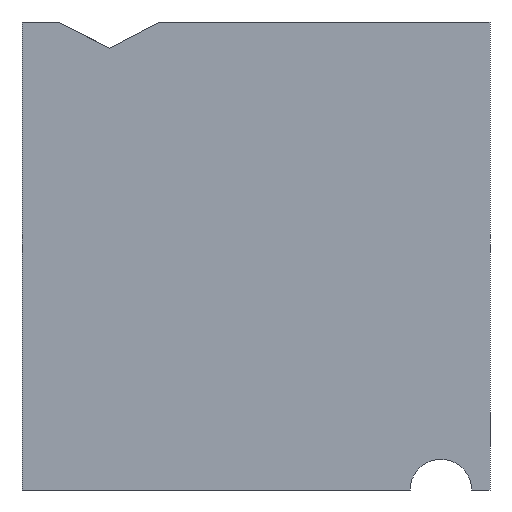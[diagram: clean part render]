
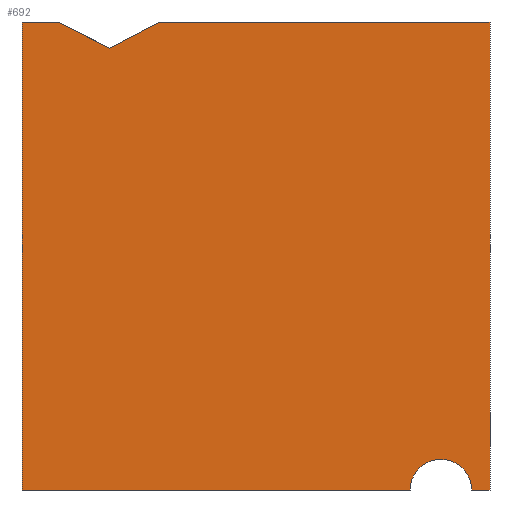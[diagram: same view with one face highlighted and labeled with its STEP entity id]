
A CAD part, front view. The second image highlights one B-rep face of the part: STEP entity #692.
In plain terms, the highlighted planar face has unit normal (0, -1, 0).
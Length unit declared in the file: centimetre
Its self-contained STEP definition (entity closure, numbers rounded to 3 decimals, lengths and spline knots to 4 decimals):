
#15 = ORIENTED_EDGE ( 'NONE', *, *, #369, .F. ) ;
#31 = VECTOR ( 'NONE', #535, 100. ) ;
#48 = ORIENTED_EDGE ( 'NONE', *, *, #1205, .T. ) ;
#49 = DIRECTION ( 'NONE',  ( 0., 1., 0. ) ) ;
#69 = CARTESIAN_POINT ( 'NONE',  ( 0., 0., 1000. ) ) ;
#71 = CARTESIAN_POINT ( 'NONE',  ( 0., 0., 1000. ) ) ;
#77 = DIRECTION ( 'NONE',  ( 0., 0., -1. ) ) ;
#95 = EDGE_CURVE ( 'NONE', #802, #153, #956, .T. ) ;
#114 = VERTEX_POINT ( 'NONE', #152 ) ;
#124 = CARTESIAN_POINT ( 'NONE',  ( 0., 0., 1000. ) ) ;
#152 = CARTESIAN_POINT ( 'NONE',  ( 1000., 0., 0. ) ) ;
#153 = VERTEX_POINT ( 'NONE', #159 ) ;
#159 = CARTESIAN_POINT ( 'NONE',  ( 1000., 0., 1000. ) ) ;
#176 = DIRECTION ( 'NONE',  ( 0., 0., -1. ) ) ;
#211 = CARTESIAN_POINT ( 'NONE',  ( 829.3568, 0., 0. ) ) ;
#258 = LINE ( 'NONE', #1194, #688 ) ;
#280 = DIRECTION ( 'NONE',  ( 0.888, 0., -0.459 ) ) ;
#295 = CARTESIAN_POINT ( 'NONE',  ( 186.9587, 0., 943.6166 ) ) ;
#316 = ORIENTED_EDGE ( 'NONE', *, *, #873, .F. ) ;
#333 = ORIENTED_EDGE ( 'NONE', *, *, #846, .T. ) ;
#369 = EDGE_CURVE ( 'NONE', #1038, #714, #1047, .T. ) ;
#379 = LINE ( 'NONE', #793, #1251 ) ;
#381 = EDGE_CURVE ( 'NONE', #714, #421, #258, .T. ) ;
#406 = EDGE_CURVE ( 'NONE', #1026, #562, #773, .T. ) ;
#407 = DIRECTION ( 'NONE',  ( 0.886, 0., 0.464 ) ) ;
#412 = LINE ( 'NONE', #1124, #701 ) ;
#421 = VERTEX_POINT ( 'NONE', #1077 ) ;
#422 = AXIS2_PLACEMENT_3D ( 'NONE', #566, #783, #980 ) ;
#535 = DIRECTION ( 'NONE',  ( 1., 0., 0. ) ) ;
#537 = DIRECTION ( 'NONE',  ( 1., 0., 0. ) ) ;
#562 = VERTEX_POINT ( 'NONE', #211 ) ;
#566 = CARTESIAN_POINT ( 'NONE',  ( 895.002, 0., 0. ) ) ;
#571 = ORIENTED_EDGE ( 'NONE', *, *, #381, .F. ) ;
#575 = EDGE_LOOP ( 'NONE', ( #1175, #1203, #571, #15, #333, #806, #628, #48, #316 ) ) ;
#626 = EDGE_CURVE ( 'NONE', #1055, #562, #937, .T. ) ;
#628 = ORIENTED_EDGE ( 'NONE', *, *, #626, .F. ) ;
#641 = AXIS2_PLACEMENT_3D ( 'NONE', #69, #49, #660 ) ;
#660 = DIRECTION ( 'NONE',  ( 0., 0., 1. ) ) ;
#673 = DIRECTION ( 'NONE',  ( 1., 0., 0. ) ) ;
#687 = VECTOR ( 'NONE', #176, 100. ) ;
#688 = VECTOR ( 'NONE', #280, 100. ) ;
#692 = ADVANCED_FACE ( 'NONE', ( #1260 ), #872, .F. ) ;
#701 = VECTOR ( 'NONE', #814, 100. ) ;
#714 = VERTEX_POINT ( 'NONE', #987 ) ;
#726 = VECTOR ( 'NONE', #673, 100. ) ;
#773 = LINE ( 'NONE', #877, #726 ) ;
#783 = DIRECTION ( 'NONE',  ( 0., -1., 0. ) ) ;
#793 = CARTESIAN_POINT ( 'NONE',  ( 0., 0., 1000. ) ) ;
#802 = VERTEX_POINT ( 'NONE', #1097 ) ;
#806 = ORIENTED_EDGE ( 'NONE', *, *, #406, .T. ) ;
#807 = CARTESIAN_POINT ( 'NONE',  ( 1000., 0., 1000. ) ) ;
#814 = DIRECTION ( 'NONE',  ( 1., 0., 0. ) ) ;
#846 = EDGE_CURVE ( 'NONE', #1038, #1026, #379, .T. ) ;
#872 = PLANE ( 'NONE',  #641 ) ;
#873 = EDGE_CURVE ( 'NONE', #153, #114, #1210, .T. ) ;
#877 = CARTESIAN_POINT ( 'NONE',  ( 0., 0., 0. ) ) ;
#906 = CARTESIAN_POINT ( 'NONE',  ( 0., 0., 0. ) ) ;
#937 = CIRCLE ( 'NONE', #422, 65.6452 ) ;
#956 = LINE ( 'NONE', #1237, #31 ) ;
#980 = DIRECTION ( 'NONE',  ( 0., 0., -1. ) ) ;
#987 = CARTESIAN_POINT ( 'NONE',  ( 77.8347, 0., 1000. ) ) ;
#991 = CARTESIAN_POINT ( 'NONE',  ( 960.6473, 0., 0. ) ) ;
#1018 = LINE ( 'NONE', #295, #1270 ) ;
#1026 = VERTEX_POINT ( 'NONE', #906 ) ;
#1038 = VERTEX_POINT ( 'NONE', #71 ) ;
#1047 = LINE ( 'NONE', #124, #1123 ) ;
#1055 = VERTEX_POINT ( 'NONE', #991 ) ;
#1077 = CARTESIAN_POINT ( 'NONE',  ( 186.9587, 0., 943.6166 ) ) ;
#1097 = CARTESIAN_POINT ( 'NONE',  ( 294.7191, 0., 1000. ) ) ;
#1123 = VECTOR ( 'NONE', #537, 100. ) ;
#1124 = CARTESIAN_POINT ( 'NONE',  ( 0., 0., 0. ) ) ;
#1175 = ORIENTED_EDGE ( 'NONE', *, *, #95, .F. ) ;
#1189 = EDGE_CURVE ( 'NONE', #421, #802, #1018, .T. ) ;
#1194 = CARTESIAN_POINT ( 'NONE',  ( 77.8347, 0., 1000. ) ) ;
#1203 = ORIENTED_EDGE ( 'NONE', *, *, #1189, .F. ) ;
#1205 = EDGE_CURVE ( 'NONE', #1055, #114, #412, .T. ) ;
#1210 = LINE ( 'NONE', #807, #687 ) ;
#1237 = CARTESIAN_POINT ( 'NONE',  ( 0., 0., 1000. ) ) ;
#1251 = VECTOR ( 'NONE', #77, 100. ) ;
#1260 = FACE_OUTER_BOUND ( 'NONE', #575, .T. ) ;
#1270 = VECTOR ( 'NONE', #407, 100. ) ;
